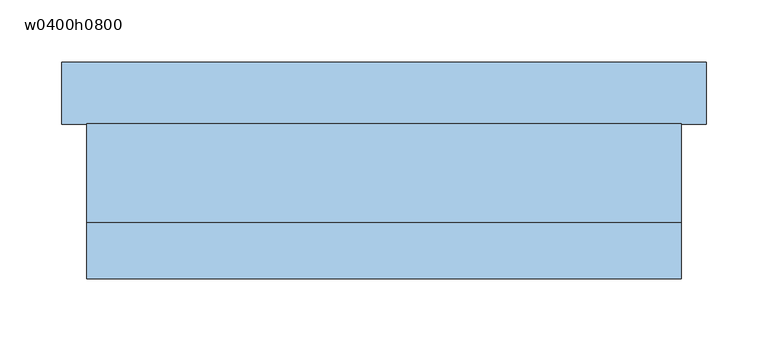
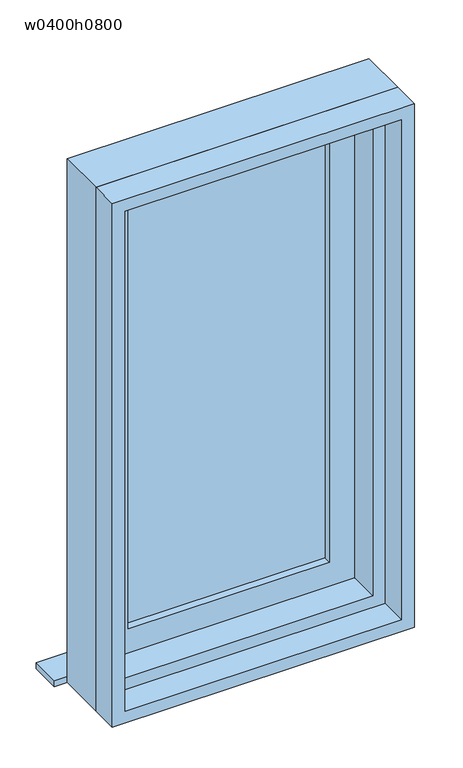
"""IFC4 building model written with IfcOpenShell, lengths in millimetres: window geometry, 縦すべり窓 : w0400h0800."""

from ifc_helpers import new_model, si_unit, frame, origin, place, context, project, spatial, polyline, outline, extrude, source, transform, mapped, element, save


def w0400h0800_0b9f01bb(model_context):
    return source(origin(), model_context, "Body", "SweptSolid", [
        extrude(outline(polyline([(160.0, 22.5), (-160.0, 22.5), (-160.0, 27.5), (160.0, 27.5), (160.0, 22.5)])), frame((0.0, 0.0, 1240.0), z_axis=(0.0, 0.0, 1.0), x_axis=(1.0, 0.0, 0.0)), (0.0, 0.0, 1.0), 720.0),
        extrude(outline(polyline([(2000.0, 200.0), (2000.0, -200.0), (1200.0, -200.0), (1200.0, 200.0), (2000.0, 200.0)]), holes=[polyline([(1960.0, -160.0), (1960.0, 160.0), (1240.0, 160.0), (1240.0, -160.0), (1960.0, -160.0)])]), frame((0.0, 10.0, 0.0), z_axis=(0.0, 1.0, 0.0), x_axis=(0.0, 0.0, 1.0)), (0.0, 0.0, 1.0), 30.0),
        extrude(outline(polyline([(260.0, 90.0), (260.0, 40.0), (-260.0, 40.0), (-260.0, 90.0), (260.0, 90.0)])), frame((0.0, 0.0, 1160.0), z_axis=(0.0, 0.0, 1.0), x_axis=(1.0, 0.0, 0.0)), (0.0, 0.0, 1.0), 10.0),
        extrude(outline(polyline([(2040.0, 240.0), (2040.0, -240.0), (1160.0, -240.0), (1160.0, 240.0), (2040.0, 240.0)]), holes=[polyline([(1180.0, -220.0), (2020.0, -220.0), (2020.0, 220.0), (1180.0, 220.0), (1180.0, -220.0)])]), frame((0.0, -85.0, 0.0), z_axis=(0.0, 1.0, 0.0), x_axis=(0.0, 0.0, 1.0)), (0.0, 0.0, 1.0), 45.0),
        extrude(outline(polyline([(2040.0, -240.0), (1160.0, -240.0), (1160.0, 240.0), (2040.0, 240.0), (2040.0, -240.0)]), holes=[polyline([(2000.0, 200.0), (1200.0, 200.0), (1200.0, -200.0), (2000.0, -200.0), (2000.0, 200.0)])]), frame((0.0, -40.0, 0.0), z_axis=(0.0, 1.0, 0.0), x_axis=(0.0, 0.0, 1.0)), (0.0, 0.0, 1.0), 80.0),
    ])


if __name__ == "__main__":
    model = new_model("IFC4")
    model_context = context("Model", 3, world=origin())
    ifc_project = project(units=[si_unit("LENGTHUNIT", "METRE", prefix="MILLI")], contexts=[model_context])
    site = spatial("IfcSite", under=ifc_project)
    building = spatial("IfcBuilding", under=site)
    placement = place(None, origin())
    w0400h0800_shape = w0400h0800_0b9f01bb(model_context)
    element("IfcWindow", 1, ObjectType="縦すべり窓 : w0400h0800", at=placement, inside=building, context=model_context, shape_type="MappedRepresentation", body=[
        mapped(w0400h0800_shape, transform((0.0, 0.0, 0.0), x_axis=(1.0, 0.0, 0.0), y_axis=(0.0, 1.0, 0.0), z_axis=(0.0, 0.0, 1.0))),
    ])
    save(model, "model.ifc")
